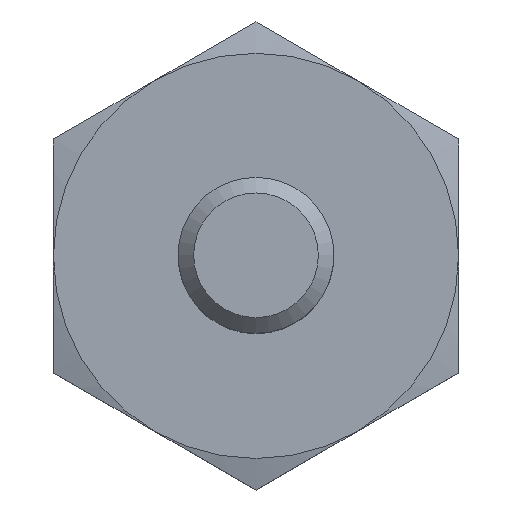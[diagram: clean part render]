
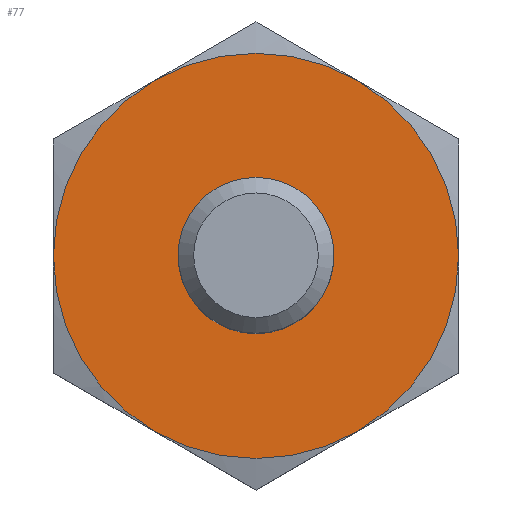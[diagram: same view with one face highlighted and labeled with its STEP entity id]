
A CAD part, top view. The second image highlights one B-rep face of the part: STEP entity #77.
In plain terms, the highlighted planar face has unit normal (0, 0, 1).
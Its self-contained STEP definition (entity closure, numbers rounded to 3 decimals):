
#46=PLANE('',#413);
#55=FACE_BOUND('',#141,.T.);
#56=FACE_BOUND('',#142,.T.);
#77=ADVANCED_FACE('',(#55,#56),#46,.T.);
#141=EDGE_LOOP('',(#209,#210,#211,#212,#213,#214));
#142=EDGE_LOOP('',(#215));
#171=CIRCLE('',#400,6.5);
#172=CIRCLE('',#402,6.5);
#173=CIRCLE('',#404,6.5);
#174=CIRCLE('',#406,6.5);
#175=CIRCLE('',#408,6.5);
#176=CIRCLE('',#410,6.5);
#177=CIRCLE('',#412,2.);
#209=ORIENTED_EDGE('',*,*,#326,.T.);
#210=ORIENTED_EDGE('',*,*,#329,.T.);
#211=ORIENTED_EDGE('',*,*,#332,.T.);
#212=ORIENTED_EDGE('',*,*,#335,.T.);
#213=ORIENTED_EDGE('',*,*,#338,.T.);
#214=ORIENTED_EDGE('',*,*,#325,.T.);
#215=ORIENTED_EDGE('',*,*,#341,.F.);
#291=VERTEX_POINT('',#555);
#293=VERTEX_POINT('',#561);
#294=VERTEX_POINT('',#565);
#296=VERTEX_POINT('',#577);
#298=VERTEX_POINT('',#592);
#300=VERTEX_POINT('',#604);
#303=VERTEX_POINT('',#630);
#325=EDGE_CURVE('',#291,#293,#171,.T.);
#326=EDGE_CURVE('',#293,#294,#172,.T.);
#329=EDGE_CURVE('',#294,#296,#173,.T.);
#332=EDGE_CURVE('',#296,#298,#174,.T.);
#335=EDGE_CURVE('',#298,#300,#175,.T.);
#338=EDGE_CURVE('',#300,#291,#176,.T.);
#341=EDGE_CURVE('',#303,#303,#177,.T.);
#400=AXIS2_PLACEMENT_3D('',#562,#450,#451);
#402=AXIS2_PLACEMENT_3D('',#564,#454,#455);
#404=AXIS2_PLACEMENT_3D('',#576,#458,#459);
#406=AXIS2_PLACEMENT_3D('',#591,#462,#463);
#408=AXIS2_PLACEMENT_3D('',#603,#466,#467);
#410=AXIS2_PLACEMENT_3D('',#618,#470,#471);
#412=AXIS2_PLACEMENT_3D('',#629,#474,#475);
#413=AXIS2_PLACEMENT_3D('',#631,#476,#477);
#450=DIRECTION('',(0.,0.,1.));
#451=DIRECTION('',(0.,-1.,0.));
#454=DIRECTION('',(0.,0.,1.));
#455=DIRECTION('',(0.,-1.,0.));
#458=DIRECTION('',(0.,0.,1.));
#459=DIRECTION('',(0.,-1.,0.));
#462=DIRECTION('',(0.,0.,1.));
#463=DIRECTION('',(0.,-1.,0.));
#466=DIRECTION('',(0.,0.,1.));
#467=DIRECTION('',(0.,-1.,0.));
#470=DIRECTION('',(0.,0.,1.));
#471=DIRECTION('',(0.,-1.,0.));
#474=DIRECTION('',(0.,0.,1.));
#475=DIRECTION('',(0.,-1.,0.));
#476=DIRECTION('',(0.,0.,1.));
#477=DIRECTION('',(0.,-1.,0.));
#555=CARTESIAN_POINT('',(-3.25,-5.629,5.));
#561=CARTESIAN_POINT('',(3.25,-5.629,5.));
#562=CARTESIAN_POINT('',(0.,0.,5.));
#564=CARTESIAN_POINT('',(0.,0.,5.));
#565=CARTESIAN_POINT('',(6.5,0.,5.));
#576=CARTESIAN_POINT('',(0.,0.,5.));
#577=CARTESIAN_POINT('',(3.25,5.629,5.));
#591=CARTESIAN_POINT('',(0.,0.,5.));
#592=CARTESIAN_POINT('',(-3.25,5.629,5.));
#603=CARTESIAN_POINT('',(0.,0.,5.));
#604=CARTESIAN_POINT('',(-6.5,0.,5.));
#618=CARTESIAN_POINT('',(0.,0.,5.));
#629=CARTESIAN_POINT('',(0.,0.,5.));
#630=CARTESIAN_POINT('',(0.,-2.,5.));
#631=CARTESIAN_POINT('',(2.,0.,5.));
